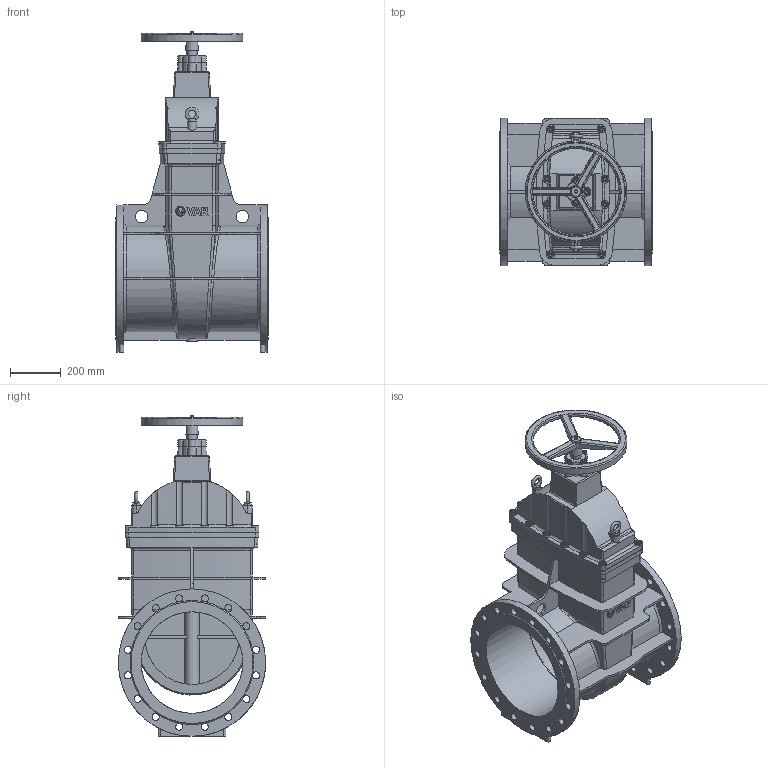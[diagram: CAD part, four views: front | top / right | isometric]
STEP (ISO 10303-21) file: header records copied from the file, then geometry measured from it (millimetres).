
FILE_DESCRIPTION(('STEP AP242'), '1');
FILE_NAME('青溻桄赅', '', ('UNSPECIFIED'), ('UNSPECIFIED'), 'C3D Converter', 'C3D Toolkit', '');
FILE_SCHEMA(('AP242_MANAGED_MODEL_BASED_3D_ENGINEERING_MIM_LF { 1 0 10303 442 1 1 4 }'));
Length unit declared in the file: millimetre
Assembly tree (27 placements, depth 2):
  (unnamed)
    (unnamed)
    (unnamed)
    (unnamed)
    (unnamed)
    (unnamed)  x2
    (unnamed)
    (unnamed)
    (unnamed)  x12
    (unnamed)  x4
    (unnamed)
    (unnamed)  x2
Bounding box: 600 x 580 x 1261.6 mm (x, y, z)
Volume: 39851633.7 mm3; surface area: 6071102.7 mm2
Topology: 30 solids, 30 shells, 1392 faces, 3534 edges, 2232 vertices
Faces by surface type: plane 651, cylinder 339, cone 130, extrusion 119, bspline 105, torus 48
Full cylindrical faces by diameter (mm): 4.917 x1, 6 x3, 12 x20, 14 x60, 21 x32, 28 x32, 38.88 x1, 40 x8, 50 x2, 58.667 x5, 340 x1, 350 x1, 372 x2, 390 x1, 400 x5, 433.6 x4, 456 x1, 580 x2
Entity records: 67920 total; most frequent: CARTESIAN_POINT 40204, ORIENTED_EDGE 5196, DIRECTION 4460, EDGE_CURVE 2598, VERTEX_POINT 1780, AXIS2_PLACEMENT_3D 1651, EDGE_LOOP 1422, VECTOR 1158
